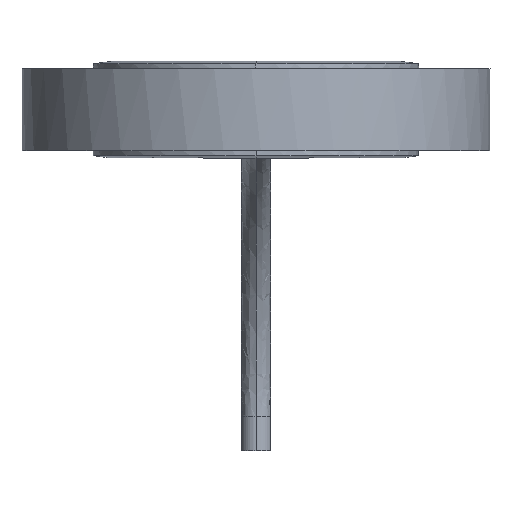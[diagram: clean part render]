
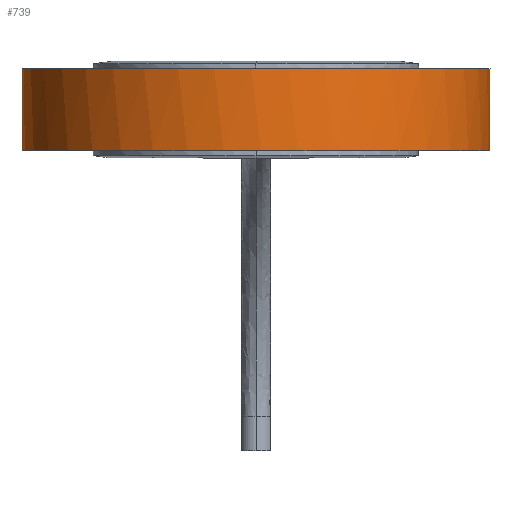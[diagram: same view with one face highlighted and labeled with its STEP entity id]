
A CAD part, front view. The second image highlights one B-rep face of the part: STEP entity #739.
In plain terms, the highlighted free-form (B-spline) face has degree [11, 1] with [12, 2] control points.
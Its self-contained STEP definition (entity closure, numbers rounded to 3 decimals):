
#27 = DIRECTION ( 'NONE',  ( 0., 0., 1. ) ) ;
#42 = CARTESIAN_POINT ( 'NONE',  ( -30.502, -23.001, -4.368 ) ) ;
#64 = ORIENTED_EDGE ( 'NONE', *, *, #767, .T. ) ;
#77 = VECTOR ( 'NONE', #1677, 1000. ) ;
#87 = CARTESIAN_POINT ( 'NONE',  ( 0.374, 23.997, -4.368 ) ) ;
#168 = EDGE_CURVE ( 'NONE', #1843, #3444, #2839, .T. ) ;
#172 = CARTESIAN_POINT ( 'NONE',  ( -28.484, -23.416, 4.2 ) ) ;
#231 = EDGE_CURVE ( 'NONE', #2362, #1843, #2516, .T. ) ;
#256 = CARTESIAN_POINT ( 'NONE',  ( -33.815, -4.273, 4.2 ) ) ;
#284 = DIRECTION ( 'NONE',  ( 0., 0., 1. ) ) ;
#307 = CARTESIAN_POINT ( 'NONE',  ( -28.173, 12.414, 4.2 ) ) ;
#308 = ORIENTED_EDGE ( 'NONE', *, *, #3198, .T. ) ;
#357 = VECTOR ( 'NONE', #2606, 1000. ) ;
#438 = CARTESIAN_POINT ( 'NONE',  ( 28.485, -23.382, 4.2 ) ) ;
#590 = CARTESIAN_POINT ( 'NONE',  ( 27.519, 15.044, -4.368 ) ) ;
#602 = CARTESIAN_POINT ( 'NONE',  ( -3.25, 23.779, 0. ) ) ;
#604 = CARTESIAN_POINT ( 'NONE',  ( 3.25, 23.779, -0.812 ) ) ;
#653 = CARTESIAN_POINT ( 'NONE',  ( -33.815, -4.273, -4.2 ) ) ;
#673 = ORIENTED_EDGE ( 'NONE', *, *, #1931, .T. ) ;
#739 = ADVANCED_FACE ( 'NONE', ( #1952 ), #1156, .T. ) ;
#767 = EDGE_CURVE ( 'NONE', #2463, #2362, #865, .T. ) ;
#784 = CARTESIAN_POINT ( 'NONE',  ( 28.173, 12.412, 4.2 ) ) ;
#809 = CARTESIAN_POINT ( 'NONE',  ( -3.25, 23.779, -0.812 ) ) ;
#849 = CARTESIAN_POINT ( 'NONE',  ( -14.013, 23.784, -4.368 ) ) ;
#853 = ORIENTED_EDGE ( 'NONE', *, *, #231, .T. ) ;
#856 = ORIENTED_EDGE ( 'NONE', *, *, #168, .T. ) ;
#865 = LINE ( 'NONE', #602, #77 ) ;
#867 = LINE ( 'NONE', #2220, #1437 ) ;
#880 = CARTESIAN_POINT ( 'NONE',  ( -27.519, 15.044, -4.368 ) ) ;
#899 = CARTESIAN_POINT ( 'NONE',  ( -16.245, 22.003, -4.2 ) ) ;
#917 = CARTESIAN_POINT ( 'NONE',  ( -28.484, -23.416, -4.2 ) ) ;
#926 = VECTOR ( 'NONE', #2183, 1000. ) ;
#983 = EDGE_CURVE ( 'NONE', #1508, #2463, #1807, .T. ) ;
#1045 = CARTESIAN_POINT ( 'NONE',  ( -3.25, 23.779, 4.2 ) ) ;
#1115 = CARTESIAN_POINT ( 'NONE',  ( -14.013, 23.784, 4.368 ) ) ;
#1122 = CARTESIAN_POINT ( 'NONE',  ( 14.013, 23.784, -4.368 ) ) ;
#1137 = CARTESIAN_POINT ( 'NONE',  ( -3.25, 23.779, 4.2 ) ) ;
#1147 = CARTESIAN_POINT ( 'NONE',  ( 30.503, -22.946, 4.368 ) ) ;
#1156 = B_SPLINE_SURFACE_WITH_KNOTS ( 'NONE', 11, 1, ( 
 ( #3005, #87 ),
 ( #1911, #1122 ),
 ( #2465, #590 ),
 ( #2723, #2741 ),
 ( #1147, #2216 ),
 ( #3276, #2236 ),
 ( #2199, #3256 ),
 ( #1959, #42 ),
 ( #2993, #2443 ),
 ( #1660, #880 ),
 ( #1115, #849 ),
 ( #3011, #2182 ) ),
 .UNSPECIFIED., .F., .F., .F.,
 ( 12, 12 ),
 ( 2, 2 ),
 ( -3.126, 3.126 ),
 ( 0.252, 8.988 ),
 .UNSPECIFIED. ) ;
#1166 = CARTESIAN_POINT ( 'NONE',  ( 33.814, -4.281, -4.2 ) ) ;
#1361 = LINE ( 'NONE', #1606, #926 ) ;
#1368 = ORIENTED_EDGE ( 'NONE', *, *, #983, .T. ) ;
#1393 = CARTESIAN_POINT ( 'NONE',  ( -3.25, 23.779, 0. ) ) ;
#1430 = CARTESIAN_POINT ( 'NONE',  ( -28.173, 12.414, -4.2 ) ) ;
#1437 = VECTOR ( 'NONE', #27, 1000. ) ;
#1508 = VERTEX_POINT ( 'NONE', #1045 ) ;
#1510 = CARTESIAN_POINT ( 'NONE',  ( 11.433, -37.036, 4.2 ) ) ;
#1606 = CARTESIAN_POINT ( 'NONE',  ( 3.25, 23.779, -4.2 ) ) ;
#1660 = CARTESIAN_POINT ( 'NONE',  ( -27.519, 15.044, 4.368 ) ) ;
#1677 = DIRECTION ( 'NONE',  ( 0., 0., -1. ) ) ;
#1766 = VECTOR ( 'NONE', #2976, 1000. ) ;
#1783 = EDGE_CURVE ( 'NONE', #2901, #3304, #867, .T. ) ;
#1807 = LINE ( 'NONE', #2297, #357 ) ;
#1843 = VERTEX_POINT ( 'NONE', #1925 ) ;
#1859 = CARTESIAN_POINT ( 'NONE',  ( 33.814, -4.281, 4.2 ) ) ;
#1881 = VECTOR ( 'NONE', #284, 1000. ) ;
#1911 = CARTESIAN_POINT ( 'NONE',  ( 14.013, 23.784, 4.368 ) ) ;
#1921 = CARTESIAN_POINT ( 'NONE',  ( 3.25, 23.779, -4.2 ) ) ;
#1925 = CARTESIAN_POINT ( 'NONE',  ( -3.25, 23.779, -4.2 ) ) ;
#1931 = EDGE_CURVE ( 'NONE', #3227, #2901, #2995, .T. ) ;
#1952 = FACE_OUTER_BOUND ( 'NONE', #2883, .T. ) ;
#1959 = CARTESIAN_POINT ( 'NONE',  ( -30.502, -23.001, 4.368 ) ) ;
#1974 = CARTESIAN_POINT ( 'NONE',  ( -3.25, 23.779, -4.2 ) ) ;
#1990 = EDGE_CURVE ( 'NONE', #3444, #3227, #1361, .T. ) ;
#2123 = CARTESIAN_POINT ( 'NONE',  ( 3.25, 23.779, 4.2 ) ) ;
#2182 = CARTESIAN_POINT ( 'NONE',  ( -0.374, 23.997, -4.368 ) ) ;
#2183 = DIRECTION ( 'NONE',  ( 0., 0., 1. ) ) ;
#2199 = CARTESIAN_POINT ( 'NONE',  ( -12.533, -38.386, 4.368 ) ) ;
#2215 = CARTESIAN_POINT ( 'NONE',  ( 16.245, 22.003, -4.2 ) ) ;
#2216 = CARTESIAN_POINT ( 'NONE',  ( 30.503, -22.946, -4.368 ) ) ;
#2220 = CARTESIAN_POINT ( 'NONE',  ( 3.25, 23.779, 0.812 ) ) ;
#2236 = CARTESIAN_POINT ( 'NONE',  ( 12.533, -38.473, -4.368 ) ) ;
#2269 = CARTESIAN_POINT ( 'NONE',  ( 3.25, 23.779, 0.812 ) ) ;
#2297 = CARTESIAN_POINT ( 'NONE',  ( -3.25, 23.779, 0. ) ) ;
#2362 = VERTEX_POINT ( 'NONE', #809 ) ;
#2380 = ORIENTED_EDGE ( 'NONE', *, *, #1783, .T. ) ;
#2443 = CARTESIAN_POINT ( 'NONE',  ( -34.97, -2.133, -4.368 ) ) ;
#2457 = CARTESIAN_POINT ( 'NONE',  ( -11.433, -36.978, -4.2 ) ) ;
#2463 = VERTEX_POINT ( 'NONE', #3079 ) ;
#2465 = CARTESIAN_POINT ( 'NONE',  ( 27.519, 15.044, 4.368 ) ) ;
#2474 = CARTESIAN_POINT ( 'NONE',  ( 11.433, -37.036, -4.2 ) ) ;
#2516 = LINE ( 'NONE', #1393, #1766 ) ;
#2554 = ORIENTED_EDGE ( 'NONE', *, *, #1990, .T. ) ;
#2574 = CARTESIAN_POINT ( 'NONE',  ( -11.433, -36.978, 4.2 ) ) ;
#2606 = DIRECTION ( 'NONE',  ( 0., 0., -1. ) ) ;
#2723 = CARTESIAN_POINT ( 'NONE',  ( 34.97, -2.15, 4.368 ) ) ;
#2741 = CARTESIAN_POINT ( 'NONE',  ( 34.97, -2.15, -4.368 ) ) ;
#2839 = B_SPLINE_CURVE_WITH_KNOTS ( 'NONE', 11,
 ( #1974, #899, #1430, #653, #917, #2457, #2474, #3311, #1166, #3275, #2215, #1921 ),
 .UNSPECIFIED., .F., .F.,
 ( 12, 12 ),
 ( 0., 0.144 ),
 .UNSPECIFIED. ) ;
#2883 = EDGE_LOOP ( 'NONE', ( #2554, #673, #2380, #308, #1368, #64, #853, #856 ) ) ;
#2901 = VERTEX_POINT ( 'NONE', #2269 ) ;
#2916 = CARTESIAN_POINT ( 'NONE',  ( 3.25, 23.779, -0.812 ) ) ;
#2976 = DIRECTION ( 'NONE',  ( 0., 0., -1. ) ) ;
#2982 = CARTESIAN_POINT ( 'NONE',  ( -16.245, 22.003, 4.2 ) ) ;
#2993 = CARTESIAN_POINT ( 'NONE',  ( -34.97, -2.133, 4.368 ) ) ;
#2995 = LINE ( 'NONE', #604, #1881 ) ;
#3005 = CARTESIAN_POINT ( 'NONE',  ( 0.374, 23.997, 4.368 ) ) ;
#3011 = CARTESIAN_POINT ( 'NONE',  ( -0.374, 23.997, 4.368 ) ) ;
#3079 = CARTESIAN_POINT ( 'NONE',  ( -3.25, 23.779, 0.812 ) ) ;
#3178 = CARTESIAN_POINT ( 'NONE',  ( 16.245, 22.003, 4.2 ) ) ;
#3198 = EDGE_CURVE ( 'NONE', #3304, #1508, #3355, .T. ) ;
#3227 = VERTEX_POINT ( 'NONE', #2916 ) ;
#3256 = CARTESIAN_POINT ( 'NONE',  ( -12.533, -38.386, -4.368 ) ) ;
#3275 = CARTESIAN_POINT ( 'NONE',  ( 28.173, 12.412, -4.2 ) ) ;
#3276 = CARTESIAN_POINT ( 'NONE',  ( 12.533, -38.473, 4.368 ) ) ;
#3304 = VERTEX_POINT ( 'NONE', #3318 ) ;
#3311 = CARTESIAN_POINT ( 'NONE',  ( 28.485, -23.382, -4.2 ) ) ;
#3318 = CARTESIAN_POINT ( 'NONE',  ( 3.25, 23.779, 4.2 ) ) ;
#3355 = B_SPLINE_CURVE_WITH_KNOTS ( 'NONE', 11,
 ( #2123, #3178, #784, #1859, #438, #1510, #2574, #172, #256, #307, #2982, #1137 ),
 .UNSPECIFIED., .F., .F.,
 ( 12, 12 ),
 ( 0., 0.144 ),
 .UNSPECIFIED. ) ;
#3444 = VERTEX_POINT ( 'NONE', #3469 ) ;
#3469 = CARTESIAN_POINT ( 'NONE',  ( 3.25, 23.779, -4.2 ) ) ;
